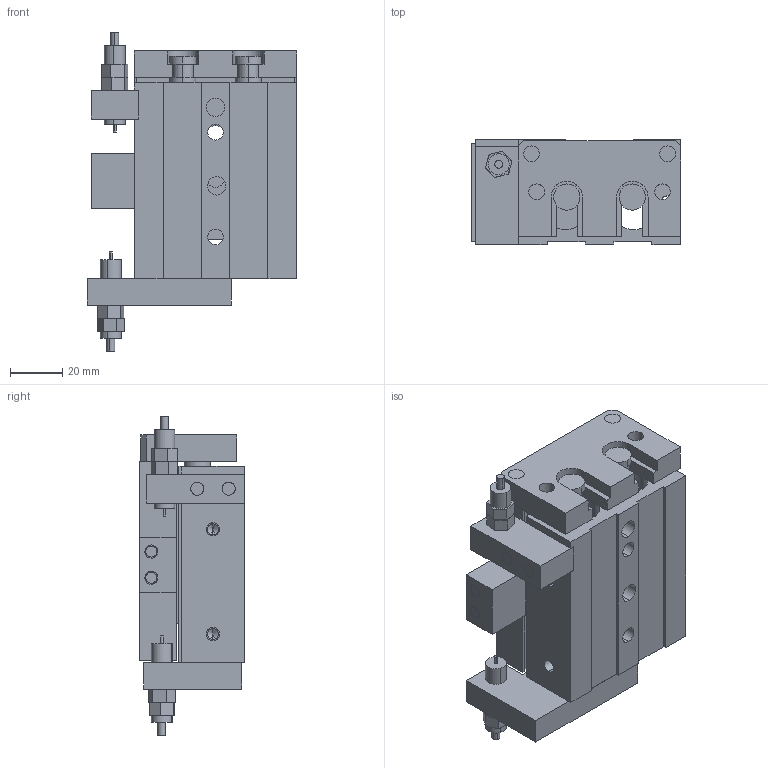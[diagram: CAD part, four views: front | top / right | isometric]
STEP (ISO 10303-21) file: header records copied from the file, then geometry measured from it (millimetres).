
FILE_DESCRIPTION (( 'STEP AP203' ), '1' );
FILE_NAME ('GDX16-10.STEP', '2013-02-25T10:50:13', ( 'Conseil Régional Haute-Normandie' ), ( 'Conseil Régional Haute-Normandie' ), 'SwSTEP 2.0', 'SolidWorks 2010', '' );
FILE_SCHEMA (( 'CONFIG_CONTROL_DESIGN' ));
Length unit declared in the file: millimetre
Products named in the file (14): Pièce 4 GDX16-10; GDX16-10; GDX25-10 Pièce14_Default; Pièce1 GDX 16-10_Default; Pièce2 GDX16-10_Default; Pièce3 GDX16-10_Default; Pièce5 GDX16-10_Default; Pièce6 GDX16-10_Default; Pièce8 GDX16-10_Default; Pièce7 GDX16-10_Default; Pièce9 GDX16-10_Default; Pièce10 GDX16-10_Default; Pièce12 GDX16-10_Default; Pièce11 GDX16-10_Default
Assembly tree (27 placements, depth 2):
  GDX16-10
    Pièce6 GDX16-10_Default
    Pièce3 GDX16-10_Default
    Pièce7 GDX16-10_Default
    Pièce10 GDX16-10_Default  x8
    Pièce11 GDX16-10_Default  x2
    Pièce12 GDX16-10_Default  x4
    Pièce8 GDX16-10_Default
    Pièce5 GDX16-10_Default  x2
    Pièce1 GDX 16-10_Default
    GDX25-10 Pièce14_Default  x2
    Pièce2 GDX16-10_Default  x2
    Pièce9 GDX16-10_Default
    Pièce 4 GDX16-10
Bounding box: 80 x 40 x 121.77 mm (x, y, z)
Volume: 180928.8 mm3; surface area: 78606.7 mm2
Topology: 27 solids, 27 shells, 742 faces, 1866 edges, 1224 vertices
Faces by surface type: plane 397, cylinder 188, bspline 133, cone 24
Entity records: 31114 total; most frequent: CARTESIAN_POINT 14588, ORIENTED_EDGE 3192, DIRECTION 2630, EDGE_CURVE 1596, LINE 1062, VECTOR 1062, VERTEX_POINT 1060, AXIS2_PLACEMENT_3D 784
